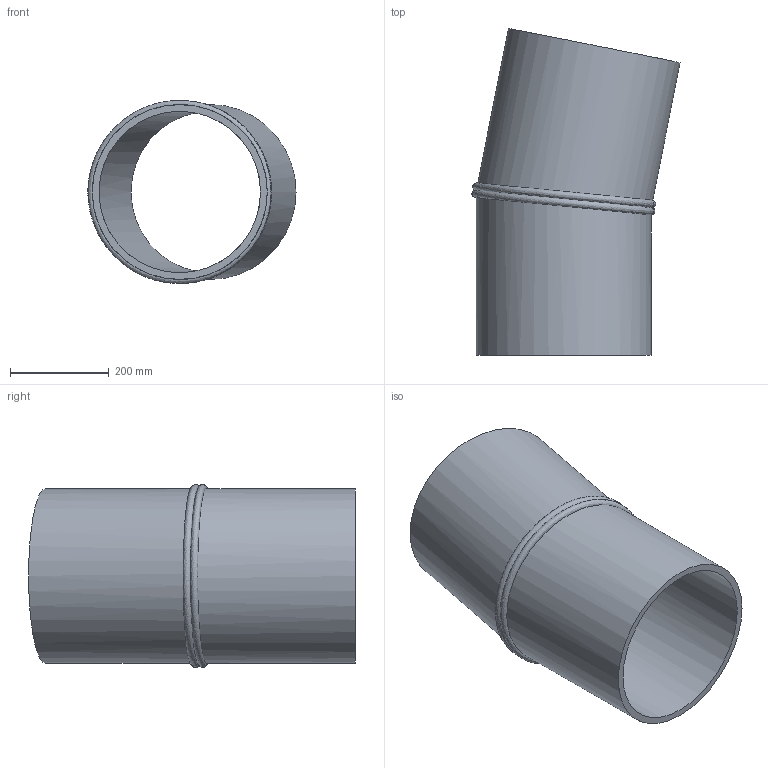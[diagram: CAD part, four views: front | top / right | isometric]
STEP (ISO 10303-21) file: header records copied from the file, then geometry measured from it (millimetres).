
FILE_DESCRIPTION(/* description */ ('Unknown'),/* implementation_level */ '2;1');
FILE_NAME(/* name */ 'Curva 11.25° a settore DE355 SDR26',/* time_stamp */ '2022-07-22T15:33:04+02:00',/* author */ ('Unknown'),/* organization */ ('Unknown'),/* preprocessor_version */ 'ST-DEVELOPER v18.102',/* originating_system */ 'Solid Edge',/* authorisation */ 'Unknown');
FILE_SCHEMA (('AUTOMOTIVE_DESIGN {1 0 10303 214 3 1 1}'));
Length unit declared in the file: millimetre
Products named in the file (2): Curva 11.25° a settore DE355 SDR26; Tubo x Gomito 11.25° DE355 SDR26
Assembly tree (2 placements, depth 2):
  Curva 11.25° a settore DE355 SDR26
    Tubo x Gomito 11.25° DE355 SDR26  x2
Bounding box: 422.46 x 663.49 x 371.42 mm (x, y, z)
Volume: 9488221.9 mm3; surface area: 1444842.1 mm2
Topology: 2 solids, 2 shells, 10 faces, 20 edges, 14 vertices
Faces by surface type: cylinder 4, plane 4, bspline 2
Full cylindrical faces by diameter (mm): 327.8 x2, 355 x2
Entity records: 767 total; most frequent: CARTESIAN_POINT 630, DIRECTION 20, ORIENTED_EDGE 10, EDGE_LOOP 10, FACE_BOUND 10, AXIS2_PLACEMENT_3D 10, EDGE_CURVE 5, VERTEX_POINT 5
